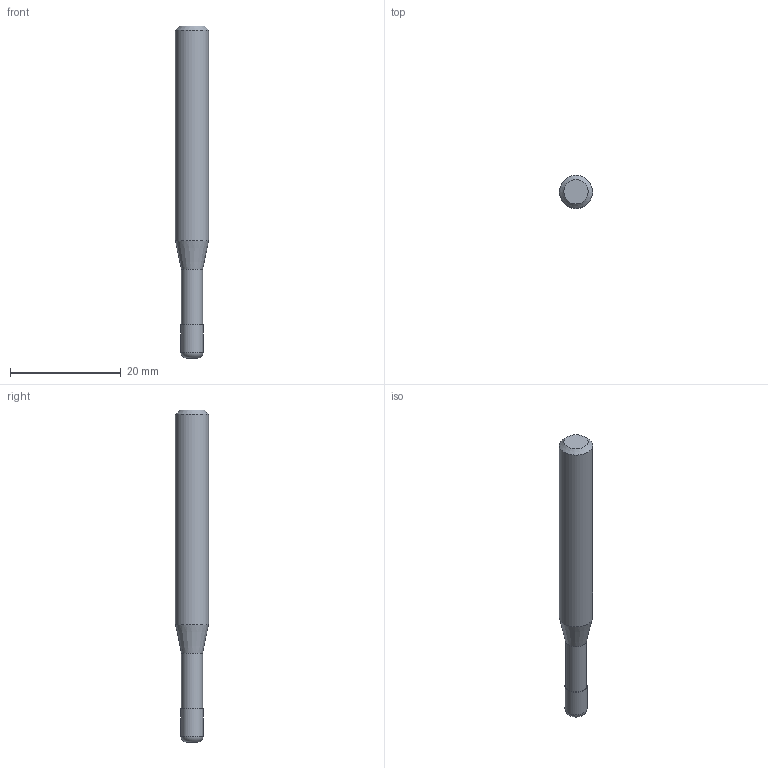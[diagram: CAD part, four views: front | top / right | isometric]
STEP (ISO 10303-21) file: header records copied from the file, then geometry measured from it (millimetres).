
FILE_DESCRIPTION((''),'2;1');
FILE_NAME('C:\Users\nsx150\AppData\Local\Temp\Mastercam 2021\17T8Q8S9EB\TEMP.step','2021-04-21T14:40:09',(''),(''),'STEP Write','Mastercam 2021 ... CNC Software, Inc.','');
FILE_SCHEMA(('AUTOMOTIVE_DESIGN'));
Length unit declared in the file: millimetre
Products named in the file (1): None
Bounding box: 6 x 6 x 60 mm (x, y, z)
Volume: 1377.9 mm3; surface area: 1057.3 mm2
Topology: 2 solids, 2 shells, 10 faces, 14 edges, 8 vertices
Faces by surface type: plane 4, cylinder 3, cone 2, torus 1
Full cylindrical faces by diameter (mm): 3.8 x1, 4 x1, 6 x1
Entity records: 232 total; most frequent: DIRECTION 40, CARTESIAN_POINT 28, AXIS2_PLACEMENT_3D 20, ORIENTED_EDGE 16, EDGE_LOOP 16, STYLED_ITEM 13, ADVANCED_FACE 10, FACE_BOUND 10
